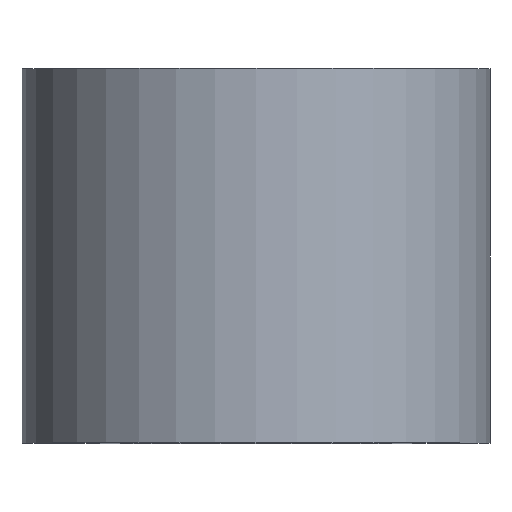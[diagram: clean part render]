
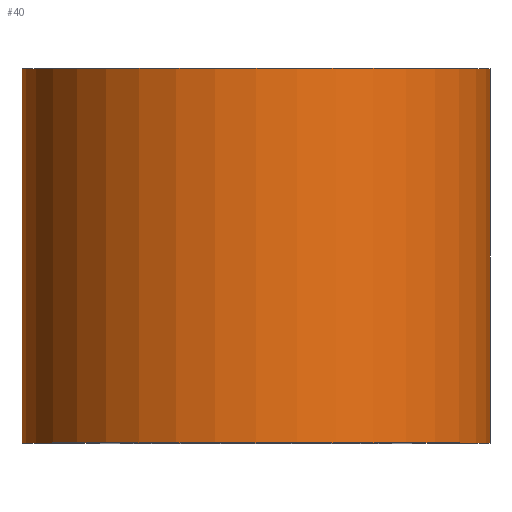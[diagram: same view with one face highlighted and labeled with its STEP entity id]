
A CAD part, top view. The second image highlights one B-rep face of the part: STEP entity #40.
In plain terms, the highlighted cylindrical face has radius 7.5 mm (diameter 15 mm), a partial arc.
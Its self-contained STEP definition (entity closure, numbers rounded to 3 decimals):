
#7 = CARTESIAN_POINT ( 'NONE',  ( 7.5, 0., 0. ) ) ;
#12 = VECTOR ( 'NONE', #57, 1000. ) ;
#13 = DIRECTION ( 'NONE',  ( -1., 0., 0. ) ) ;
#18 = EDGE_CURVE ( 'NONE', #225, #76, #146, .T. ) ;
#24 = AXIS2_PLACEMENT_3D ( 'NONE', #275, #42, #13 ) ;
#33 = VERTEX_POINT ( 'NONE', #133 ) ;
#40 = ADVANCED_FACE ( 'NONE', ( #219 ), #237, .T. ) ;
#42 = DIRECTION ( 'NONE',  ( 0., 1., 0. ) ) ;
#46 = CARTESIAN_POINT ( 'NONE',  ( -7.5, 0., 0. ) ) ;
#51 = DIRECTION ( 'NONE',  ( 0., 1., 0. ) ) ;
#57 = DIRECTION ( 'NONE',  ( 0., 1., 0. ) ) ;
#62 = LINE ( 'NONE', #291, #241 ) ;
#76 = VERTEX_POINT ( 'NONE', #138 ) ;
#100 = AXIS2_PLACEMENT_3D ( 'NONE', #252, #51, #214 ) ;
#107 = VERTEX_POINT ( 'NONE', #118 ) ;
#109 = EDGE_LOOP ( 'NONE', ( #141, #156, #199, #295 ) ) ;
#118 = CARTESIAN_POINT ( 'NONE',  ( -7.5, 12., 0. ) ) ;
#133 = CARTESIAN_POINT ( 'NONE',  ( 7.5, 12., 0. ) ) ;
#138 = CARTESIAN_POINT ( 'NONE',  ( 7.5, 0., 0. ) ) ;
#141 = ORIENTED_EDGE ( 'NONE', *, *, #18, .T. ) ;
#146 = CIRCLE ( 'NONE', #24, 7.5 ) ;
#156 = ORIENTED_EDGE ( 'NONE', *, *, #262, .T. ) ;
#159 = DIRECTION ( 'NONE',  ( 0., 1., 0. ) ) ;
#180 = CIRCLE ( 'NONE', #100, 7.5 ) ;
#183 = LINE ( 'NONE', #7, #12 ) ;
#193 = AXIS2_PLACEMENT_3D ( 'NONE', #205, #159, #279 ) ;
#199 = ORIENTED_EDGE ( 'NONE', *, *, #245, .F. ) ;
#205 = CARTESIAN_POINT ( 'NONE',  ( 0., 0., 0. ) ) ;
#214 = DIRECTION ( 'NONE',  ( -1., 0., 0. ) ) ;
#219 = FACE_OUTER_BOUND ( 'NONE', #109, .T. ) ;
#225 = VERTEX_POINT ( 'NONE', #46 ) ;
#237 = CYLINDRICAL_SURFACE ( 'NONE', #193, 7.5 ) ;
#241 = VECTOR ( 'NONE', #260, 1000. ) ;
#245 = EDGE_CURVE ( 'NONE', #107, #33, #180, .T. ) ;
#252 = CARTESIAN_POINT ( 'NONE',  ( 0., 12., 0. ) ) ;
#260 = DIRECTION ( 'NONE',  ( 0., 1., 0. ) ) ;
#262 = EDGE_CURVE ( 'NONE', #76, #33, #183, .T. ) ;
#272 = EDGE_CURVE ( 'NONE', #225, #107, #62, .T. ) ;
#275 = CARTESIAN_POINT ( 'NONE',  ( 0., 0., 0. ) ) ;
#279 = DIRECTION ( 'NONE',  ( -1., 0., 0. ) ) ;
#291 = CARTESIAN_POINT ( 'NONE',  ( -7.5, 0., 0. ) ) ;
#295 = ORIENTED_EDGE ( 'NONE', *, *, #272, .F. ) ;
